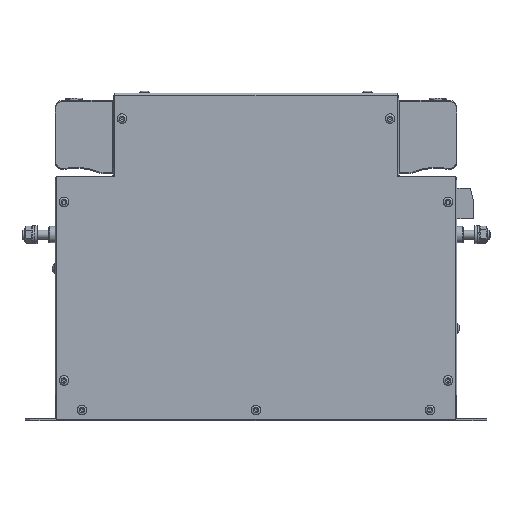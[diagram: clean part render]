
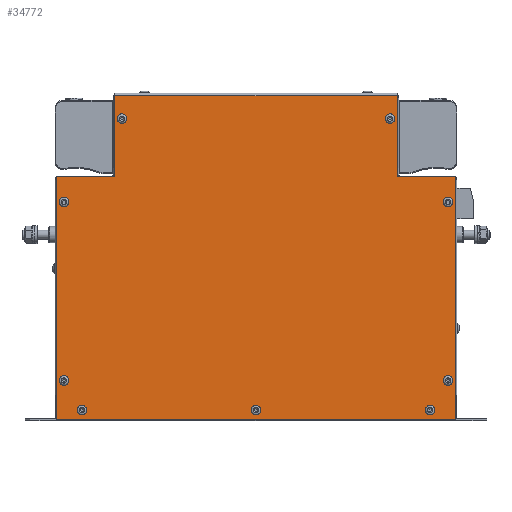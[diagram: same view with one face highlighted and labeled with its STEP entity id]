
A CAD part, top view. The second image highlights one B-rep face of the part: STEP entity #34772.
In plain terms, the highlighted planar face has unit normal (0, 0, 1).
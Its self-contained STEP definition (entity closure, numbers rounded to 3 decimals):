
#2816=LINE('',#58585,#5310);
#2819=LINE('',#58590,#5313);
#2821=LINE('',#58594,#5315);
#2822=LINE('',#58596,#5316);
#2823=LINE('',#58598,#5317);
#2824=LINE('',#58600,#5318);
#2825=LINE('',#58602,#5319);
#2826=LINE('',#58604,#5320);
#2827=LINE('',#58606,#5321);
#2828=LINE('',#58607,#5322);
#5310=VECTOR('',#46266,10.);
#5313=VECTOR('',#46271,10.);
#5315=VECTOR('',#46275,10.);
#5316=VECTOR('',#46276,10.);
#5317=VECTOR('',#46277,10.);
#5318=VECTOR('',#46278,10.);
#5319=VECTOR('',#46279,10.);
#5320=VECTOR('',#46280,10.);
#5321=VECTOR('',#46281,10.);
#5322=VECTOR('',#46282,10.);
#7113=FACE_BOUND('',#11294,.T.);
#7114=FACE_BOUND('',#11295,.T.);
#7115=FACE_BOUND('',#11296,.T.);
#7116=FACE_BOUND('',#11297,.T.);
#7117=FACE_BOUND('',#11298,.T.);
#7118=FACE_BOUND('',#11299,.T.);
#7119=FACE_BOUND('',#11300,.T.);
#7120=FACE_BOUND('',#11301,.T.);
#7121=FACE_BOUND('',#11302,.T.);
#8723=FACE_OUTER_BOUND('',#11293,.T.);
#11293=EDGE_LOOP('',(#27393,#27394,#27395,#27396,#27397,#27398,#27399,#27400,
#27401,#27402));
#11294=EDGE_LOOP('',(#27403));
#11295=EDGE_LOOP('',(#27404));
#11296=EDGE_LOOP('',(#27405));
#11297=EDGE_LOOP('',(#27406));
#11298=EDGE_LOOP('',(#27407));
#11299=EDGE_LOOP('',(#27408));
#11300=EDGE_LOOP('',(#27409));
#11301=EDGE_LOOP('',(#27410));
#11302=EDGE_LOOP('',(#27411));
#12982=CIRCLE('',#37776,3.25);
#12997=CIRCLE('',#37804,3.25);
#13012=CIRCLE('',#37832,3.25);
#13027=CIRCLE('',#37860,3.25);
#13042=CIRCLE('',#37888,3.25);
#13057=CIRCLE('',#37916,3.25);
#13072=CIRCLE('',#37944,3.25);
#13087=CIRCLE('',#37972,3.25);
#13102=CIRCLE('',#38000,3.25);
#15596=VERTEX_POINT('',#57918);
#15611=VERTEX_POINT('',#57991);
#15626=VERTEX_POINT('',#58064);
#15641=VERTEX_POINT('',#58137);
#15656=VERTEX_POINT('',#58210);
#15671=VERTEX_POINT('',#58283);
#15686=VERTEX_POINT('',#58356);
#15701=VERTEX_POINT('',#58429);
#15716=VERTEX_POINT('',#58502);
#15732=VERTEX_POINT('',#58583);
#15733=VERTEX_POINT('',#58584);
#15734=VERTEX_POINT('',#58589);
#15735=VERTEX_POINT('',#58593);
#15736=VERTEX_POINT('',#58595);
#15737=VERTEX_POINT('',#58597);
#15738=VERTEX_POINT('',#58599);
#15739=VERTEX_POINT('',#58601);
#15740=VERTEX_POINT('',#58603);
#15741=VERTEX_POINT('',#58605);
#19593=EDGE_CURVE('',#15596,#15596,#12982,.T.);
#19609=EDGE_CURVE('',#15611,#15611,#12997,.T.);
#19625=EDGE_CURVE('',#15626,#15626,#13012,.T.);
#19641=EDGE_CURVE('',#15641,#15641,#13027,.T.);
#19657=EDGE_CURVE('',#15656,#15656,#13042,.T.);
#19673=EDGE_CURVE('',#15671,#15671,#13057,.T.);
#19689=EDGE_CURVE('',#15686,#15686,#13072,.T.);
#19705=EDGE_CURVE('',#15701,#15701,#13087,.T.);
#19721=EDGE_CURVE('',#15716,#15716,#13102,.T.);
#19742=EDGE_CURVE('',#15732,#15733,#2816,.T.);
#19745=EDGE_CURVE('',#15733,#15734,#2819,.T.);
#19747=EDGE_CURVE('',#15732,#15735,#2821,.T.);
#19748=EDGE_CURVE('',#15735,#15736,#2822,.T.);
#19749=EDGE_CURVE('',#15736,#15737,#2823,.T.);
#19750=EDGE_CURVE('',#15737,#15738,#2824,.T.);
#19751=EDGE_CURVE('',#15738,#15739,#2825,.T.);
#19752=EDGE_CURVE('',#15740,#15739,#2826,.T.);
#19753=EDGE_CURVE('',#15741,#15740,#2827,.T.);
#19754=EDGE_CURVE('',#15734,#15741,#2828,.T.);
#27393=ORIENTED_EDGE('',*,*,#19742,.F.);
#27394=ORIENTED_EDGE('',*,*,#19747,.T.);
#27395=ORIENTED_EDGE('',*,*,#19748,.T.);
#27396=ORIENTED_EDGE('',*,*,#19749,.T.);
#27397=ORIENTED_EDGE('',*,*,#19750,.T.);
#27398=ORIENTED_EDGE('',*,*,#19751,.T.);
#27399=ORIENTED_EDGE('',*,*,#19752,.F.);
#27400=ORIENTED_EDGE('',*,*,#19753,.F.);
#27401=ORIENTED_EDGE('',*,*,#19754,.F.);
#27402=ORIENTED_EDGE('',*,*,#19745,.F.);
#27403=ORIENTED_EDGE('',*,*,#19593,.T.);
#27404=ORIENTED_EDGE('',*,*,#19609,.T.);
#27405=ORIENTED_EDGE('',*,*,#19625,.T.);
#27406=ORIENTED_EDGE('',*,*,#19641,.T.);
#27407=ORIENTED_EDGE('',*,*,#19657,.T.);
#27408=ORIENTED_EDGE('',*,*,#19673,.T.);
#27409=ORIENTED_EDGE('',*,*,#19689,.T.);
#27410=ORIENTED_EDGE('',*,*,#19705,.T.);
#27411=ORIENTED_EDGE('',*,*,#19721,.T.);
#30887=PLANE('',#38027);
#34772=ADVANCED_FACE('',(#8723,#7113,#7114,#7115,#7116,#7117,#7118,#7119,
#7120,#7121),#30887,.T.);
#37776=AXIS2_PLACEMENT_3D('',#57919,#45757,#45758);
#37804=AXIS2_PLACEMENT_3D('',#57992,#45813,#45814);
#37832=AXIS2_PLACEMENT_3D('',#58065,#45869,#45870);
#37860=AXIS2_PLACEMENT_3D('',#58138,#45925,#45926);
#37888=AXIS2_PLACEMENT_3D('',#58211,#45981,#45982);
#37916=AXIS2_PLACEMENT_3D('',#58284,#46037,#46038);
#37944=AXIS2_PLACEMENT_3D('',#58357,#46093,#46094);
#37972=AXIS2_PLACEMENT_3D('',#58430,#46149,#46150);
#38000=AXIS2_PLACEMENT_3D('',#58503,#46205,#46206);
#38027=AXIS2_PLACEMENT_3D('',#58592,#46273,#46274);
#45757=DIRECTION('center_axis',(0.,0.,
-1.));
#45758=DIRECTION('ref_axis',(-0.99,-0.138,0.));
#45813=DIRECTION('center_axis',(0.,0.,
-1.));
#45814=DIRECTION('ref_axis',(1.,0.,0.));
#45869=DIRECTION('center_axis',(0.,0.,
-1.));
#45870=DIRECTION('ref_axis',(1.,0.,0.));
#45925=DIRECTION('center_axis',(0.,0.,
-1.));
#45926=DIRECTION('ref_axis',(1.,0.,0.));
#45981=DIRECTION('center_axis',(0.,0.,
-1.));
#45982=DIRECTION('ref_axis',(-0.291,-0.957,0.));
#46037=DIRECTION('center_axis',(0.,0.,
-1.));
#46038=DIRECTION('ref_axis',(0.842,-0.54,0.));
#46093=DIRECTION('center_axis',(0.,0.,
-1.));
#46094=DIRECTION('ref_axis',(1.,0.,0.));
#46149=DIRECTION('center_axis',(0.,0.,
-1.));
#46150=DIRECTION('ref_axis',(1.,0.,0.));
#46205=DIRECTION('center_axis',(0.,0.,
-1.));
#46206=DIRECTION('ref_axis',(1.,0.,0.));
#46266=DIRECTION('',(0.707,-0.707,0.));
#46271=DIRECTION('',(0.,-1.,0.));
#46273=DIRECTION('center_axis',(0.,0.,
1.));
#46274=DIRECTION('ref_axis',(1.,0.,0.));
#46275=DIRECTION('',(-1.,0.,0.));
#46276=DIRECTION('',(0.,1.,0.));
#46277=DIRECTION('',(-1.,0.,0.));
#46278=DIRECTION('',(0.,-1.,0.));
#46279=DIRECTION('',(-1.,0.,0.));
#46280=DIRECTION('',(0.707,0.707,0.));
#46281=DIRECTION('',(0.,1.,0.));
#46282=DIRECTION('',(-1.,0.,0.));
#57918=CARTESIAN_POINT('',(3.219,7.449,47.4));
#57919=CARTESIAN_POINT('Origin',(0.,7.,
47.4));
#57991=CARTESIAN_POINT('',(-120.25,7.,47.4));
#57992=CARTESIAN_POINT('Origin',(-117.,7.,47.4));
#58064=CARTESIAN_POINT('',(-132.25,26.9,47.4));
#58065=CARTESIAN_POINT('Origin',(-129.,26.9,47.4));
#58137=CARTESIAN_POINT('',(-132.25,146.9,47.4));
#58138=CARTESIAN_POINT('Origin',(-129.,146.9,47.4));
#58210=CARTESIAN_POINT('',(-89.053,205.909,47.4));
#58211=CARTESIAN_POINT('Origin',(-90.,202.8,47.4));
#58283=CARTESIAN_POINT('',(87.264,204.554,47.4));
#58284=CARTESIAN_POINT('Origin',(90.,202.8,47.4));
#58356=CARTESIAN_POINT('',(113.75,7.,47.4));
#58357=CARTESIAN_POINT('Origin',(117.,7.,47.4));
#58429=CARTESIAN_POINT('',(125.75,146.9,47.4));
#58430=CARTESIAN_POINT('Origin',(129.,146.9,47.4));
#58502=CARTESIAN_POINT('',(125.75,26.9,47.4));
#58503=CARTESIAN_POINT('Origin',(129.,26.9,47.4));
#58583=CARTESIAN_POINT('',(132.8,164.,47.4));
#58584=CARTESIAN_POINT('',(133.8,163.,47.4));
#58585=CARTESIAN_POINT('',(113.225,183.575,47.4));
#58589=CARTESIAN_POINT('',(133.8,1.,47.4));
#58590=CARTESIAN_POINT('',(133.8,1.,47.4));
#58592=CARTESIAN_POINT('Origin',(0.,110.5,47.4));
#58593=CARTESIAN_POINT('',(94.8,164.,47.4));
#58594=CARTESIAN_POINT('',(66.9,164.,47.4));
#58595=CARTESIAN_POINT('',(94.8,218.2,47.4));
#58596=CARTESIAN_POINT('',(94.8,137.25,47.4));
#58597=CARTESIAN_POINT('',(-94.8,218.2,47.4));
#58598=CARTESIAN_POINT('',(47.4,218.2,47.4));
#58599=CARTESIAN_POINT('',(-94.8,164.,47.4));
#58600=CARTESIAN_POINT('',(-94.8,165.25,47.4));
#58601=CARTESIAN_POINT('',(-132.8,164.,47.4));
#58602=CARTESIAN_POINT('',(-47.4,164.,47.4));
#58603=CARTESIAN_POINT('',(-133.8,163.,47.4));
#58604=CARTESIAN_POINT('',(-113.225,183.575,47.4));
#58605=CARTESIAN_POINT('',(-133.8,1.,47.4));
#58606=CARTESIAN_POINT('',(-133.8,220.,47.4));
#58607=CARTESIAN_POINT('',(-133.8,1.,47.4));
